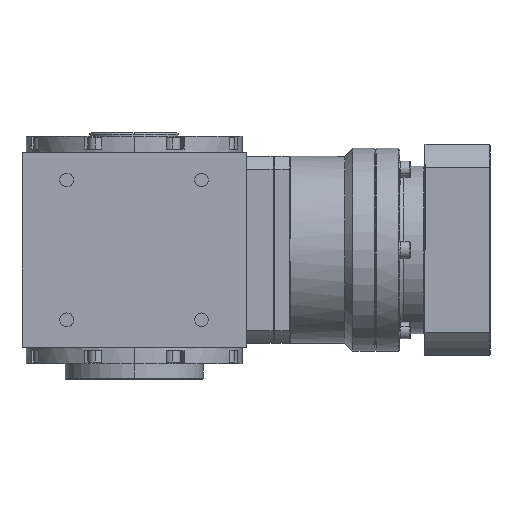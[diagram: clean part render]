
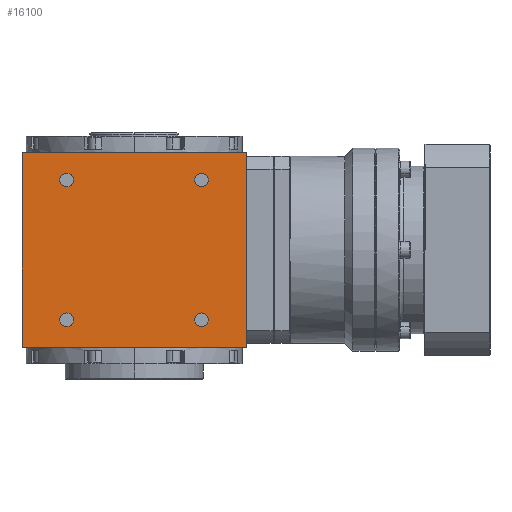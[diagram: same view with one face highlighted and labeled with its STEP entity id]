
A CAD part, left-side view. The second image highlights one B-rep face of the part: STEP entity #16100.
In plain terms, the highlighted planar face has unit normal (-1, 0, 0).
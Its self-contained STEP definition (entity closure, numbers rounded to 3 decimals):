
#587 = CIRCLE ( 'NONE', #18851, 4.2 ) ;
#2222 = ORIENTED_EDGE ( 'NONE', *, *, #10462, .T. ) ;
#2371 = ORIENTED_EDGE ( 'NONE', *, *, #26301, .T. ) ;
#4165 = DIRECTION ( 'NONE',  ( 1., 0., 0. ) ) ;
#4380 = VECTOR ( 'NONE', #13867, 1000. ) ;
#4615 = FACE_OUTER_BOUND ( 'NONE', #36892, .T. ) ;
#4719 = EDGE_CURVE ( 'NONE', #31859, #22798, #24347, .T. ) ;
#4989 = CARTESIAN_POINT ( 'NONE',  ( -69., -41.5, 43. ) ) ;
#5034 = DIRECTION ( 'NONE',  ( 1., 0., 0. ) ) ;
#5280 = LINE ( 'NONE', #8946, #29549 ) ;
#5554 = CARTESIAN_POINT ( 'NONE',  ( -69., 41.5, -43. ) ) ;
#6150 = DIRECTION ( 'NONE',  ( 0., 0., 1. ) ) ;
#6387 = AXIS2_PLACEMENT_3D ( 'NONE', #37502, #8090, #26289 ) ;
#7489 = PLANE ( 'NONE',  #13815 ) ;
#8090 = DIRECTION ( 'NONE',  ( 1., 0., 0. ) ) ;
#8251 = ORIENTED_EDGE ( 'NONE', *, *, #26846, .F. ) ;
#8564 = CARTESIAN_POINT ( 'NONE',  ( -69., 69., 60. ) ) ;
#8946 = CARTESIAN_POINT ( 'NONE',  ( -69., 0., 60. ) ) ;
#9018 = VERTEX_POINT ( 'NONE', #39947 ) ;
#9374 = DIRECTION ( 'NONE',  ( 0., -1., 0. ) ) ;
#9602 = CIRCLE ( 'NONE', #18087, 4.2 ) ;
#10127 = AXIS2_PLACEMENT_3D ( 'NONE', #5554, #37375, #6150 ) ;
#10183 = CARTESIAN_POINT ( 'NONE',  ( -69., -41.5, -38.8 ) ) ;
#10289 = DIRECTION ( 'NONE',  ( 1., 0., 0. ) ) ;
#10354 = FACE_BOUND ( 'NONE', #13974, .T. ) ;
#10462 = EDGE_CURVE ( 'NONE', #16344, #22629, #23543, .T. ) ;
#10624 = ORIENTED_EDGE ( 'NONE', *, *, #27002, .T. ) ;
#10934 = EDGE_CURVE ( 'NONE', #25755, #16522, #37794, .T. ) ;
#11112 = DIRECTION ( 'NONE',  ( 0., 0., 1. ) ) ;
#11855 = CARTESIAN_POINT ( 'NONE',  ( -69., 41.5, -47.2 ) ) ;
#12662 = DIRECTION ( 'NONE',  ( 0., 0., 1. ) ) ;
#13224 = DIRECTION ( 'NONE',  ( -1., 0., 0. ) ) ;
#13266 = CARTESIAN_POINT ( 'NONE',  ( -69., 41.5, 43. ) ) ;
#13284 = ORIENTED_EDGE ( 'NONE', *, *, #24568, .T. ) ;
#13436 = FACE_BOUND ( 'NONE', #23886, .T. ) ;
#13815 = AXIS2_PLACEMENT_3D ( 'NONE', #32406, #13224, #25884 ) ;
#13867 = DIRECTION ( 'NONE',  ( 0., 0., 1. ) ) ;
#13974 = EDGE_LOOP ( 'NONE', ( #25809, #34573 ) ) ;
#14065 = AXIS2_PLACEMENT_3D ( 'NONE', #31523, #10289, #31918 ) ;
#14643 = CARTESIAN_POINT ( 'NONE',  ( -69., 69., -60. ) ) ;
#14709 = EDGE_CURVE ( 'NONE', #16522, #25755, #587, .T. ) ;
#15393 = ORIENTED_EDGE ( 'NONE', *, *, #21769, .T. ) ;
#16100 = ADVANCED_FACE ( 'NONE', ( #4615, #16891, #13436, #35058, #10354 ), #7489, .T. ) ;
#16344 = VERTEX_POINT ( 'NONE', #37047 ) ;
#16522 = VERTEX_POINT ( 'NONE', #28896 ) ;
#16750 = CARTESIAN_POINT ( 'NONE',  ( -69., -41.5, 47.2 ) ) ;
#16891 = FACE_BOUND ( 'NONE', #28033, .T. ) ;
#16916 = CARTESIAN_POINT ( 'NONE',  ( -69., 69., -60. ) ) ;
#17119 = EDGE_CURVE ( 'NONE', #30448, #31859, #5280, .T. ) ;
#17296 = VECTOR ( 'NONE', #36798, 1000. ) ;
#17342 = CARTESIAN_POINT ( 'NONE',  ( -69., -69., 60. ) ) ;
#17520 = VERTEX_POINT ( 'NONE', #14643 ) ;
#17948 = CIRCLE ( 'NONE', #14065, 4.2 ) ;
#18087 = AXIS2_PLACEMENT_3D ( 'NONE', #13266, #37538, #12662 ) ;
#18219 = VERTEX_POINT ( 'NONE', #19873 ) ;
#18851 = AXIS2_PLACEMENT_3D ( 'NONE', #21489, #21698, #24324 ) ;
#19628 = VECTOR ( 'NONE', #9374, 1000. ) ;
#19873 = CARTESIAN_POINT ( 'NONE',  ( -69., 41.5, -38.8 ) ) ;
#21489 = CARTESIAN_POINT ( 'NONE',  ( -69., -41.5, 43. ) ) ;
#21698 = DIRECTION ( 'NONE',  ( 1., 0., 0. ) ) ;
#21701 = ORIENTED_EDGE ( 'NONE', *, *, #23288, .T. ) ;
#21769 = EDGE_CURVE ( 'NONE', #27658, #9018, #17948, .T. ) ;
#22241 = LINE ( 'NONE', #28371, #19628 ) ;
#22443 = LINE ( 'NONE', #16916, #4380 ) ;
#22629 = VERTEX_POINT ( 'NONE', #10183 ) ;
#22798 = VERTEX_POINT ( 'NONE', #27736 ) ;
#22829 = AXIS2_PLACEMENT_3D ( 'NONE', #4989, #4165, #11112 ) ;
#23288 = EDGE_CURVE ( 'NONE', #32571, #18219, #34260, .T. ) ;
#23543 = CIRCLE ( 'NONE', #32015, 4.2 ) ;
#23704 = ORIENTED_EDGE ( 'NONE', *, *, #36240, .T. ) ;
#23886 = EDGE_LOOP ( 'NONE', ( #2371, #2222 ) ) ;
#24324 = DIRECTION ( 'NONE',  ( 0., 0., 1. ) ) ;
#24347 = LINE ( 'NONE', #33149, #17296 ) ;
#24568 = EDGE_CURVE ( 'NONE', #9018, #27658, #9602, .T. ) ;
#25755 = VERTEX_POINT ( 'NONE', #16750 ) ;
#25809 = ORIENTED_EDGE ( 'NONE', *, *, #10934, .T. ) ;
#25884 = DIRECTION ( 'NONE',  ( 0., 0., 1. ) ) ;
#26289 = DIRECTION ( 'NONE',  ( 0., 0., 1. ) ) ;
#26301 = EDGE_CURVE ( 'NONE', #22629, #16344, #38296, .T. ) ;
#26474 = ORIENTED_EDGE ( 'NONE', *, *, #4719, .F. ) ;
#26846 = EDGE_CURVE ( 'NONE', #17520, #30448, #22443, .T. ) ;
#27002 = EDGE_CURVE ( 'NONE', #18219, #32571, #38348, .T. ) ;
#27318 = DIRECTION ( 'NONE',  ( 1., 0., 0. ) ) ;
#27658 = VERTEX_POINT ( 'NONE', #40199 ) ;
#27736 = CARTESIAN_POINT ( 'NONE',  ( -69., -69., -60. ) ) ;
#28033 = EDGE_LOOP ( 'NONE', ( #13284, #15393 ) ) ;
#28371 = CARTESIAN_POINT ( 'NONE',  ( -69., 0., -60. ) ) ;
#28896 = CARTESIAN_POINT ( 'NONE',  ( -69., -41.5, 38.8 ) ) ;
#29549 = VECTOR ( 'NONE', #33260, 1000. ) ;
#30448 = VERTEX_POINT ( 'NONE', #8564 ) ;
#30550 = EDGE_LOOP ( 'NONE', ( #10624, #21701 ) ) ;
#31371 = CARTESIAN_POINT ( 'NONE',  ( -69., 41.5, -43. ) ) ;
#31523 = CARTESIAN_POINT ( 'NONE',  ( -69., 41.5, 43. ) ) ;
#31859 = VERTEX_POINT ( 'NONE', #17342 ) ;
#31918 = DIRECTION ( 'NONE',  ( 0., 0., 1. ) ) ;
#32015 = AXIS2_PLACEMENT_3D ( 'NONE', #35856, #5034, #38505 ) ;
#32406 = CARTESIAN_POINT ( 'NONE',  ( -69., 69., -60. ) ) ;
#32571 = VERTEX_POINT ( 'NONE', #11855 ) ;
#33149 = CARTESIAN_POINT ( 'NONE',  ( -69., -69., -60. ) ) ;
#33260 = DIRECTION ( 'NONE',  ( 0., -1., 0. ) ) ;
#34260 = CIRCLE ( 'NONE', #10127, 4.2 ) ;
#34371 = AXIS2_PLACEMENT_3D ( 'NONE', #31371, #27318, #34426 ) ;
#34426 = DIRECTION ( 'NONE',  ( 0., 0., 1. ) ) ;
#34573 = ORIENTED_EDGE ( 'NONE', *, *, #14709, .T. ) ;
#35058 = FACE_BOUND ( 'NONE', #30550, .T. ) ;
#35856 = CARTESIAN_POINT ( 'NONE',  ( -69., -41.5, -43. ) ) ;
#36240 = EDGE_CURVE ( 'NONE', #17520, #22798, #22241, .T. ) ;
#36798 = DIRECTION ( 'NONE',  ( 0., 0., -1. ) ) ;
#36892 = EDGE_LOOP ( 'NONE', ( #8251, #23704, #26474, #37153 ) ) ;
#37047 = CARTESIAN_POINT ( 'NONE',  ( -69., -41.5, -47.2 ) ) ;
#37153 = ORIENTED_EDGE ( 'NONE', *, *, #17119, .F. ) ;
#37375 = DIRECTION ( 'NONE',  ( 1., 0., 0. ) ) ;
#37502 = CARTESIAN_POINT ( 'NONE',  ( -69., -41.5, -43. ) ) ;
#37538 = DIRECTION ( 'NONE',  ( 1., 0., 0. ) ) ;
#37794 = CIRCLE ( 'NONE', #22829, 4.2 ) ;
#38296 = CIRCLE ( 'NONE', #6387, 4.2 ) ;
#38348 = CIRCLE ( 'NONE', #34371, 4.2 ) ;
#38505 = DIRECTION ( 'NONE',  ( 0., 0., 1. ) ) ;
#39947 = CARTESIAN_POINT ( 'NONE',  ( -69., 41.5, 47.2 ) ) ;
#40199 = CARTESIAN_POINT ( 'NONE',  ( -69., 41.5, 38.8 ) ) ;
